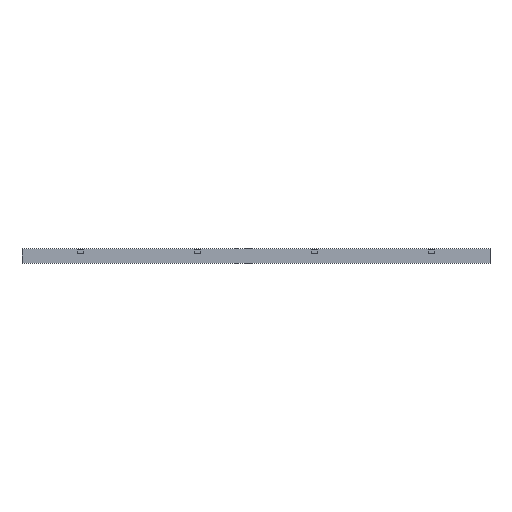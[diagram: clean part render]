
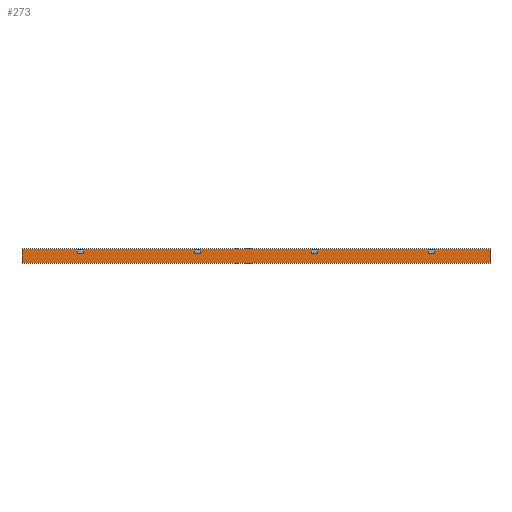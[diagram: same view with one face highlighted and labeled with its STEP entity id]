
A CAD part, left-side view. The second image highlights one B-rep face of the part: STEP entity #273.
In plain terms, the highlighted planar face has unit normal (-1, 0, 0).
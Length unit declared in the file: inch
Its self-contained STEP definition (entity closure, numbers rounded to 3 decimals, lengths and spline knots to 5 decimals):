
#18=FACE_BOUND('',#830,.T.);
#19=FACE_BOUND('',#831,.T.);
#20=FACE_BOUND('',#832,.T.);
#21=FACE_BOUND('',#833,.T.);
#273=ADVANCED_FACE('',(#549,#18,#19,#20,#21),#4781,.T.);
#549=FACE_OUTER_BOUND('',#829,.T.);
#829=EDGE_LOOP('',(#1702,#1703,#1704,#1705));
#830=EDGE_LOOP('',(#1706,#1707,#1708,#1709));
#831=EDGE_LOOP('',(#1710,#1711,#1712,#1713));
#832=EDGE_LOOP('',(#1714,#1715,#1716,#1717));
#833=EDGE_LOOP('',(#1718,#1719,#1720,#1721));
#1702=ORIENTED_EDGE('',*,*,#3046,.T.);
#1703=ORIENTED_EDGE('',*,*,#3047,.T.);
#1704=ORIENTED_EDGE('',*,*,#3048,.T.);
#1705=ORIENTED_EDGE('',*,*,#3049,.T.);
#1706=ORIENTED_EDGE('',*,*,#2684,.F.);
#1707=ORIENTED_EDGE('',*,*,#2714,.F.);
#1708=ORIENTED_EDGE('',*,*,#2651,.F.);
#1709=ORIENTED_EDGE('',*,*,#2614,.F.);
#1710=ORIENTED_EDGE('',*,*,#2840,.F.);
#1711=ORIENTED_EDGE('',*,*,#2870,.F.);
#1712=ORIENTED_EDGE('',*,*,#2807,.F.);
#1713=ORIENTED_EDGE('',*,*,#2770,.F.);
#1714=ORIENTED_EDGE('',*,*,#2996,.F.);
#1715=ORIENTED_EDGE('',*,*,#3026,.F.);
#1716=ORIENTED_EDGE('',*,*,#2963,.F.);
#1717=ORIENTED_EDGE('',*,*,#2926,.F.);
#1718=ORIENTED_EDGE('',*,*,#3053,.T.);
#1719=ORIENTED_EDGE('',*,*,#3050,.T.);
#1720=ORIENTED_EDGE('',*,*,#3051,.T.);
#1721=ORIENTED_EDGE('',*,*,#3052,.T.);
#2614=EDGE_CURVE('',#4150,#4151,#3382,.T.);
#2651=EDGE_CURVE('',#4151,#4176,#3419,.T.);
#2684=EDGE_CURVE('',#4198,#4150,#3452,.T.);
#2714=EDGE_CURVE('',#4176,#4198,#3482,.T.);
#2770=EDGE_CURVE('',#4254,#4255,#3538,.T.);
#2807=EDGE_CURVE('',#4255,#4280,#3575,.T.);
#2840=EDGE_CURVE('',#4302,#4254,#3608,.T.);
#2870=EDGE_CURVE('',#4280,#4302,#3638,.T.);
#2926=EDGE_CURVE('',#4358,#4359,#3694,.T.);
#2963=EDGE_CURVE('',#4359,#4384,#3731,.T.);
#2996=EDGE_CURVE('',#4406,#4358,#3764,.T.);
#3026=EDGE_CURVE('',#4384,#4406,#3794,.T.);
#3046=EDGE_CURVE('',#4426,#4427,#3814,.T.);
#3047=EDGE_CURVE('',#4427,#4428,#3815,.T.);
#3048=EDGE_CURVE('',#4428,#4429,#3816,.T.);
#3049=EDGE_CURVE('',#4429,#4426,#3817,.T.);
#3050=EDGE_CURVE('',#4430,#4431,#3818,.T.);
#3051=EDGE_CURVE('',#4431,#4432,#3819,.T.);
#3052=EDGE_CURVE('',#4432,#4433,#3820,.T.);
#3053=EDGE_CURVE('',#4433,#4430,#3821,.T.);
#3382=B_SPLINE_CURVE_WITH_KNOTS('',1,(#6419,#6420),.UNSPECIFIED.,.F.,.F.,
(2,2),(0.,1.25),.UNSPECIFIED.);
#3419=B_SPLINE_CURVE_WITH_KNOTS('',1,(#6493,#6494),.UNSPECIFIED.,.F.,.F.,
(2,2),(0.,0.75),.UNSPECIFIED.);
#3452=B_SPLINE_CURVE_WITH_KNOTS('',1,(#6559,#6560),.UNSPECIFIED.,.F.,.F.,
(2,2),(0.,0.75),.UNSPECIFIED.);
#3482=B_SPLINE_CURVE_WITH_KNOTS('',1,(#6619,#6620),.UNSPECIFIED.,.F.,.F.,
(2,2),(0.,1.25),.UNSPECIFIED.);
#3538=B_SPLINE_CURVE_WITH_KNOTS('',1,(#6731,#6732),.UNSPECIFIED.,.F.,.F.,
(2,2),(0.,1.25),.UNSPECIFIED.);
#3575=B_SPLINE_CURVE_WITH_KNOTS('',1,(#6805,#6806),.UNSPECIFIED.,.F.,.F.,
(2,2),(0.,0.75),.UNSPECIFIED.);
#3608=B_SPLINE_CURVE_WITH_KNOTS('',1,(#6871,#6872),.UNSPECIFIED.,.F.,.F.,
(2,2),(0.,0.75),.UNSPECIFIED.);
#3638=B_SPLINE_CURVE_WITH_KNOTS('',1,(#6931,#6932),.UNSPECIFIED.,.F.,.F.,
(2,2),(0.,1.25),.UNSPECIFIED.);
#3694=B_SPLINE_CURVE_WITH_KNOTS('',1,(#7043,#7044),.UNSPECIFIED.,.F.,.F.,
(2,2),(0.,1.25),.UNSPECIFIED.);
#3731=B_SPLINE_CURVE_WITH_KNOTS('',1,(#7117,#7118),.UNSPECIFIED.,.F.,.F.,
(2,2),(0.,0.75),.UNSPECIFIED.);
#3764=B_SPLINE_CURVE_WITH_KNOTS('',1,(#7183,#7184),.UNSPECIFIED.,.F.,.F.,
(2,2),(0.,0.75),.UNSPECIFIED.);
#3794=B_SPLINE_CURVE_WITH_KNOTS('',1,(#7243,#7244),.UNSPECIFIED.,.F.,.F.,
(2,2),(0.,1.25),.UNSPECIFIED.);
#3814=B_SPLINE_CURVE_WITH_KNOTS('',1,(#7283,#7284),.UNSPECIFIED.,.F.,.F.,
(2,2),(0.,96.),.UNSPECIFIED.);
#3815=B_SPLINE_CURVE_WITH_KNOTS('',1,(#7285,#7286),.UNSPECIFIED.,.F.,.F.,
(2,2),(0.,3.),.UNSPECIFIED.);
#3816=B_SPLINE_CURVE_WITH_KNOTS('',1,(#7287,#7288),.UNSPECIFIED.,.F.,.F.,
(2,2),(0.,96.),.UNSPECIFIED.);
#3817=B_SPLINE_CURVE_WITH_KNOTS('',1,(#7289,#7290),.UNSPECIFIED.,.F.,.F.,
(2,2),(0.,3.),.UNSPECIFIED.);
#3818=B_SPLINE_CURVE_WITH_KNOTS('',1,(#7291,#7292),.UNSPECIFIED.,.F.,.F.,
(2,2),(0.,1.25),.UNSPECIFIED.);
#3819=B_SPLINE_CURVE_WITH_KNOTS('',1,(#7293,#7294),.UNSPECIFIED.,.F.,.F.,
(2,2),(0.,0.75),.UNSPECIFIED.);
#3820=B_SPLINE_CURVE_WITH_KNOTS('',1,(#7295,#7296),.UNSPECIFIED.,.F.,.F.,
(2,2),(0.,1.25),.UNSPECIFIED.);
#3821=B_SPLINE_CURVE_WITH_KNOTS('',1,(#7297,#7298),.UNSPECIFIED.,.F.,.F.,
(2,2),(0.,0.75),.UNSPECIFIED.);
#4150=VERTEX_POINT('',#5863);
#4151=VERTEX_POINT('',#5864);
#4176=VERTEX_POINT('',#5889);
#4198=VERTEX_POINT('',#5911);
#4254=VERTEX_POINT('',#5967);
#4255=VERTEX_POINT('',#5968);
#4280=VERTEX_POINT('',#5993);
#4302=VERTEX_POINT('',#6015);
#4358=VERTEX_POINT('',#6071);
#4359=VERTEX_POINT('',#6072);
#4384=VERTEX_POINT('',#6097);
#4406=VERTEX_POINT('',#6119);
#4426=VERTEX_POINT('',#6139);
#4427=VERTEX_POINT('',#6140);
#4428=VERTEX_POINT('',#6141);
#4429=VERTEX_POINT('',#6142);
#4430=VERTEX_POINT('',#6143);
#4431=VERTEX_POINT('',#6144);
#4432=VERTEX_POINT('',#6145);
#4433=VERTEX_POINT('',#6146);
#4781=PLANE('',#5148);
#5148=AXIS2_PLACEMENT_3D('',#5706,#5427,$);
#5427=DIRECTION('',(-1.,0.,0.));
#5706=CARTESIAN_POINT('',(-21.25,57.60472,1.80472));
#5863=CARTESIAN_POINT('',(-21.25,35.375,1.25));
#5864=CARTESIAN_POINT('',(-21.25,36.625,1.25));
#5889=CARTESIAN_POINT('',(-21.25,36.625,0.5));
#5911=CARTESIAN_POINT('',(-21.25,35.375,0.5));
#5967=CARTESIAN_POINT('',(-21.25,11.375,1.25));
#5968=CARTESIAN_POINT('',(-21.25,12.625,1.25));
#5993=CARTESIAN_POINT('',(-21.25,12.625,0.5));
#6015=CARTESIAN_POINT('',(-21.25,11.375,0.5));
#6071=CARTESIAN_POINT('',(-21.25,-12.625,1.25));
#6072=CARTESIAN_POINT('',(-21.25,-11.375,1.25));
#6097=CARTESIAN_POINT('',(-21.25,-11.375,0.5));
#6119=CARTESIAN_POINT('',(-21.25,-12.625,0.5));
#6139=CARTESIAN_POINT('',(-21.25,48.,-1.5));
#6140=CARTESIAN_POINT('',(-21.25,-48.,-1.5));
#6141=CARTESIAN_POINT('',(-21.25,-48.,1.5));
#6142=CARTESIAN_POINT('',(-21.25,48.,1.5));
#6143=CARTESIAN_POINT('',(-21.25,-35.375,1.25));
#6144=CARTESIAN_POINT('',(-21.25,-36.625,1.25));
#6145=CARTESIAN_POINT('',(-21.25,-36.625,0.5));
#6146=CARTESIAN_POINT('',(-21.25,-35.375,0.5));
#6419=CARTESIAN_POINT('',(-21.25,35.375,1.25));
#6420=CARTESIAN_POINT('',(-21.25,36.625,1.25));
#6493=CARTESIAN_POINT('',(-21.25,36.625,1.25));
#6494=CARTESIAN_POINT('',(-21.25,36.625,0.5));
#6559=CARTESIAN_POINT('',(-21.25,35.375,0.5));
#6560=CARTESIAN_POINT('',(-21.25,35.375,1.25));
#6619=CARTESIAN_POINT('',(-21.25,36.625,0.5));
#6620=CARTESIAN_POINT('',(-21.25,35.375,0.5));
#6731=CARTESIAN_POINT('',(-21.25,11.375,1.25));
#6732=CARTESIAN_POINT('',(-21.25,12.625,1.25));
#6805=CARTESIAN_POINT('',(-21.25,12.625,1.25));
#6806=CARTESIAN_POINT('',(-21.25,12.625,0.5));
#6871=CARTESIAN_POINT('',(-21.25,11.375,0.5));
#6872=CARTESIAN_POINT('',(-21.25,11.375,1.25));
#6931=CARTESIAN_POINT('',(-21.25,12.625,0.5));
#6932=CARTESIAN_POINT('',(-21.25,11.375,0.5));
#7043=CARTESIAN_POINT('',(-21.25,-12.625,1.25));
#7044=CARTESIAN_POINT('',(-21.25,-11.375,1.25));
#7117=CARTESIAN_POINT('',(-21.25,-11.375,1.25));
#7118=CARTESIAN_POINT('',(-21.25,-11.375,0.5));
#7183=CARTESIAN_POINT('',(-21.25,-12.625,0.5));
#7184=CARTESIAN_POINT('',(-21.25,-12.625,1.25));
#7243=CARTESIAN_POINT('',(-21.25,-11.375,0.5));
#7244=CARTESIAN_POINT('',(-21.25,-12.625,0.5));
#7283=CARTESIAN_POINT('',(-21.25,48.,-1.5));
#7284=CARTESIAN_POINT('',(-21.25,-48.,-1.5));
#7285=CARTESIAN_POINT('',(-21.25,-48.,-1.5));
#7286=CARTESIAN_POINT('',(-21.25,-48.,1.5));
#7287=CARTESIAN_POINT('',(-21.25,-48.,1.5));
#7288=CARTESIAN_POINT('',(-21.25,48.,1.5));
#7289=CARTESIAN_POINT('',(-21.25,48.,1.5));
#7290=CARTESIAN_POINT('',(-21.25,48.,-1.5));
#7291=CARTESIAN_POINT('',(-21.25,-35.375,1.25));
#7292=CARTESIAN_POINT('',(-21.25,-36.625,1.25));
#7293=CARTESIAN_POINT('',(-21.25,-36.625,1.25));
#7294=CARTESIAN_POINT('',(-21.25,-36.625,0.5));
#7295=CARTESIAN_POINT('',(-21.25,-36.625,0.5));
#7296=CARTESIAN_POINT('',(-21.25,-35.375,0.5));
#7297=CARTESIAN_POINT('',(-21.25,-35.375,0.5));
#7298=CARTESIAN_POINT('',(-21.25,-35.375,1.25));
